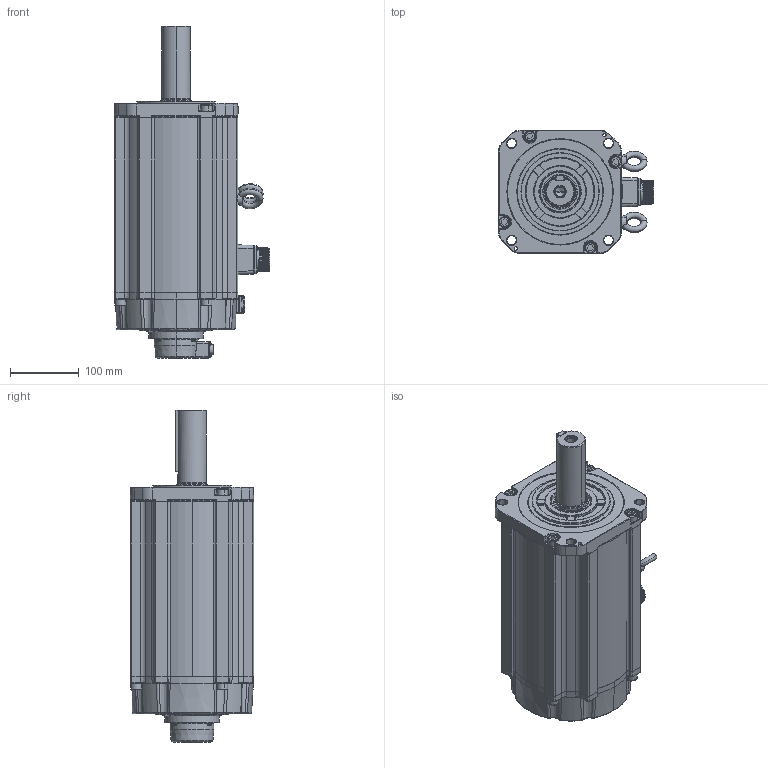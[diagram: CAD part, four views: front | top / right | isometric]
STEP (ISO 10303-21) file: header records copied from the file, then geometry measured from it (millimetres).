
FILE_DESCRIPTION (( 'STEP AP214' ), '1' );
FILE_NAME ('RSA1-M-180-7.5kw-B.STEP', '2024-08-12T09:32:43', ( '' ), ( '' ), 'SwSTEP 2.0', 'SolidWorks 2020', '' );
FILE_SCHEMA (( 'AUTOMOTIVE_DESIGN' ));
Length unit declared in the file: millimetre
Products named in the file (17): RSA1-M-180-7.5kw-B; 4140000005_电机内部编码器线_7x26AWG(0.1m-CMV1-10芯螺纹插座_GACJ3045); 蚐猾_TC45x62x9; す瑩_B12x8x90; ﾊｮﾗﾖｲﾛﾅﾌﾍｷﾗﾔｼｷﾂﾝｶ､_M3x8; 130秶雄ん盄揤裔; 裂遠蹟隊_M8; 180-M-7.5kw-儂褲; 180-惕掅雄薯脣釱; 内六角圆柱头螺钉_M10x30; 内六角圆柱头和平垫圈组合螺钉_M3x16; 坋趼羞攫芛蹟隊_M3x30; 180-ヶ傷裔; 130梓袧綴裔; 180-瑤脣釱; 180-翋粣-42粣噤; 180-惕掅綴傷裔
Assembly tree (37 placements, depth 2):
  RSA1-M-180-7.5kw-B
    180-M-7.5kw-儂褲
    180-ヶ傷裔
    180-瑤脣釱
    180-惕掅綴傷裔
    130梓袧綴裔
    4140000005_电机内部编码器线_7x26AWG(0.1m-CMV1-10芯螺纹插座_GACJ3045)
    180-惕掅雄薯脣釱
    180-翋粣-42粣噤
    す瑩_B12x8x90
    ﾊｮﾗﾖｲﾛﾅﾌﾍｷﾗﾔｼｷﾂﾝｶ､_M3x8  x4
    坋趼羞攫芛蹟隊_M3x30  x8
    内六角圆柱头螺钉_M10x30  x8
    内六角圆柱头和平垫圈组合螺钉_M3x16  x4
    130秶雄ん盄揤裔
    蚐猾_TC45x62x9
    裂遠蹟隊_M8  x2
Bounding box: 226.5 x 180 x 484.5 mm (x, y, z)
Volume: 8722763.1 mm3; surface area: 611111.2 mm2
Topology: 42 solids, 43 shells, 3768 faces, 9453 edges, 5934 vertices
Faces by surface type: plane 1597, cylinder 871, bspline 543, cone 379, torus 324, sphere 54
Entity records: 119890 total; most frequent: CARTESIAN_POINT 42783, ORIENTED_EDGE 16396, DIRECTION 14922, EDGE_CURVE 8198, AXIS2_PLACEMENT_3D 5353, VERTEX_POINT 5166, VECTOR 4216, LINE 4216
